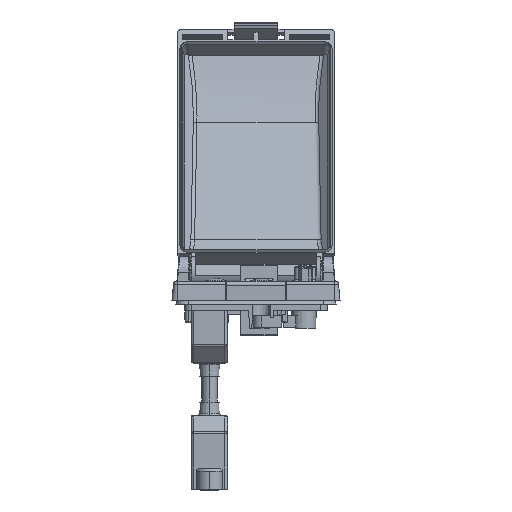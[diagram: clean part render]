
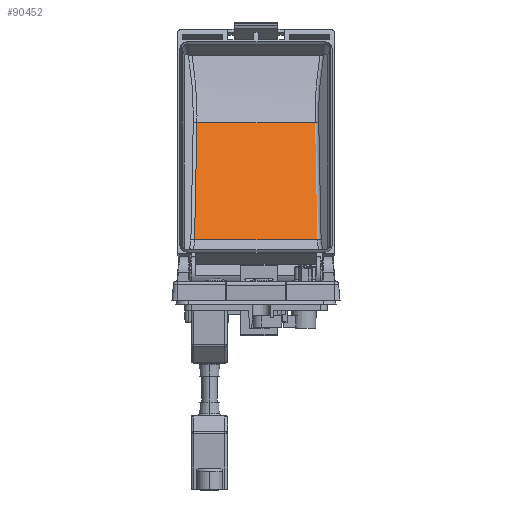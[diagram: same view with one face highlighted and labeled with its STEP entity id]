
A CAD part, left-side view. The second image highlights one B-rep face of the part: STEP entity #90452.
In plain terms, the highlighted planar face has unit normal (-0.865, 0, 0.502).
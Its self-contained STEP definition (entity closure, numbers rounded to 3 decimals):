
#2777 = VERTEX_POINT ( 'NONE', #78210 ) ;
#4287 = DIRECTION ( 'NONE',  ( -0.502, 0., -0.865 ) ) ;
#4637 = EDGE_LOOP ( 'NONE', ( #27116, #48033, #91085, #42905 ) ) ;
#9295 = DIRECTION ( 'NONE',  ( 0., 1., 0. ) ) ;
#15430 = EDGE_CURVE ( 'NONE', #21100, #2777, #76373, .T. ) ;
#19930 = VECTOR ( 'NONE', #9295, 1000. ) ;
#19944 = CARTESIAN_POINT ( 'NONE',  ( 97.905, 189.435, 61.35 ) ) ;
#21100 = VERTEX_POINT ( 'NONE', #57333 ) ;
#22192 = CARTESIAN_POINT ( 'NONE',  ( 71.612, 189.435, 16.093 ) ) ;
#24293 = PLANE ( 'NONE',  #35152 ) ;
#25093 = CARTESIAN_POINT ( 'NONE',  ( 71.612, 243.595, 16.093 ) ) ;
#27116 = ORIENTED_EDGE ( 'NONE', *, *, #83539, .F. ) ;
#30569 = CARTESIAN_POINT ( 'NONE',  ( 97.905, 196.988, 61.35 ) ) ;
#35152 = AXIS2_PLACEMENT_3D ( 'NONE', #88301, #88005, #4287 ) ;
#37935 = CARTESIAN_POINT ( 'NONE',  ( 89.141, 196.683, 46.264 ) ) ;
#39882 = VERTEX_POINT ( 'NONE', #59596 ) ;
#40809 = DIRECTION ( 'NONE',  ( 0., 1., 0. ) ) ;
#42617 = FACE_OUTER_BOUND ( 'NONE', #4637, .T. ) ;
#42905 = ORIENTED_EDGE ( 'NONE', *, *, #72158, .T. ) ;
#48033 = ORIENTED_EDGE ( 'NONE', *, *, #77338, .F. ) ;
#49046 = VECTOR ( 'NONE', #40809, 1000. ) ;
#49594 = LINE ( 'NONE', #22192, #19930 ) ;
#51416 = CARTESIAN_POINT ( 'NONE',  ( 71.612, 196.074, 16.093 ) ) ;
#51627 = VECTOR ( 'NONE', #66134, 1000. ) ;
#53787 = LINE ( 'NONE', #63688, #51627 ) ;
#54986 = VERTEX_POINT ( 'NONE', #25093 ) ;
#57333 = CARTESIAN_POINT ( 'NONE',  ( 71.612, 196.074, 16.093 ) ) ;
#57853 = LINE ( 'NONE', #19944, #49046 ) ;
#59596 = CARTESIAN_POINT ( 'NONE',  ( 97.905, 242.682, 61.35 ) ) ;
#59690 = CARTESIAN_POINT ( 'NONE',  ( 80.377, 196.379, 31.179 ) ) ;
#63688 = CARTESIAN_POINT ( 'NONE',  ( 71.612, 243.595, 16.093 ) ) ;
#66134 = DIRECTION ( 'NONE',  ( 0.502, -0.017, 0.865 ) ) ;
#72158 = EDGE_CURVE ( 'NONE', #2777, #39882, #57853, .T. ) ;
#76373 = B_SPLINE_CURVE_WITH_KNOTS ( 'NONE', 3,
 ( #51416, #59690, #37935, #30569 ),
 .UNSPECIFIED., .F., .F.,
 ( 4, 4 ),
 ( 0., 1. ),
 .UNSPECIFIED. ) ;
#77338 = EDGE_CURVE ( 'NONE', #21100, #54986, #49594, .T. ) ;
#78210 = CARTESIAN_POINT ( 'NONE',  ( 97.905, 196.988, 61.35 ) ) ;
#83539 = EDGE_CURVE ( 'NONE', #54986, #39882, #53787, .T. ) ;
#88005 = DIRECTION ( 'NONE',  ( 0.865, 0., -0.502 ) ) ;
#88301 = CARTESIAN_POINT ( 'NONE',  ( 97.905, 189.435, 61.35 ) ) ;
#90452 = ADVANCED_FACE ( 'NONE', ( #42617 ), #24293, .F. ) ;
#91085 = ORIENTED_EDGE ( 'NONE', *, *, #15430, .T. ) ;
